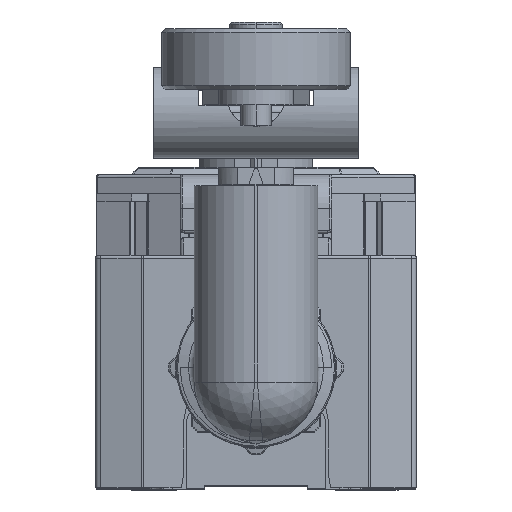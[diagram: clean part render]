
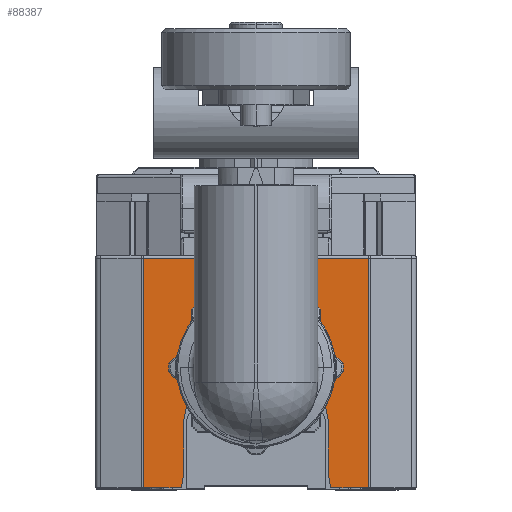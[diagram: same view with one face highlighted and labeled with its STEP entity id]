
A CAD part, top view. The second image highlights one B-rep face of the part: STEP entity #88387.
In plain terms, the highlighted planar face has unit normal (0, 0, 1).
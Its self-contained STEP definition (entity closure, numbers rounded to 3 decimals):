
#76668=DIRECTION('',(-0.18,-0.984,0.));
#76669=VECTOR('',#76668,1.525);
#76670=CARTESIAN_POINT('',(-9.591,1.65,4.55));
#76671=LINE('',#76670,#76669);
#76675=DIRECTION('',(0.,-1.,0.));
#76676=VECTOR('',#76675,30.3);
#76677=CARTESIAN_POINT('',(-14.868,30.45,4.55));
#76678=LINE('',#76677,#76676);
#76682=DIRECTION('',(0.,1.,0.));
#76683=VECTOR('',#76682,30.3);
#76684=CARTESIAN_POINT('',(14.868,0.15,4.55));
#76685=LINE('',#76684,#76683);
#76689=DIRECTION('',(-0.18,0.984,0.));
#76690=VECTOR('',#76689,1.525);
#76691=CARTESIAN_POINT('',(9.865,0.15,4.55));
#76692=LINE('',#76691,#76690);
#76696=DIRECTION('',(0.006,-1.,0.));
#76697=VECTOR('',#76696,7.385);
#76698=CARTESIAN_POINT('',(9.544,9.035,4.55));
#76699=LINE('',#76698,#76697);
#76703=DIRECTION('',(-0.009,1.,0.));
#76704=VECTOR('',#76703,3.388);
#76705=CARTESIAN_POINT('',(8.379,12.685,4.55));
#76706=LINE('',#76705,#76704);
#76710=CARTESIAN_POINT('',(0.,16.,4.55));
#76711=DIRECTION('',(0.,0.,1.));
#76712=DIRECTION('',(1.,0.009,0.));
#76713=AXIS2_PLACEMENT_3D('',#76710,#76711,#76712);
#76718=DIRECTION('',(-0.009,-1.,0.));
#76719=VECTOR('',#76718,3.388);
#76720=CARTESIAN_POINT('',(-8.35,16.073,4.55));
#76721=LINE('',#76720,#76719);
#76725=DIRECTION('',(0.006,1.,0.));
#76726=VECTOR('',#76725,7.385);
#76727=CARTESIAN_POINT('',(-9.591,1.65,4.55));
#76728=LINE('',#76727,#76726);
#76732=CARTESIAN_POINT('',(-1.439,29.85,4.55));
#76733=DIRECTION('',(0.,0.,-1.));
#76734=DIRECTION('',(-0.866,-0.5,0.));
#76735=AXIS2_PLACEMENT_3D('',#76732,#76733,#76734);
#76740=DIRECTION('',(-0.5,0.866,0.));
#76741=VECTOR('',#76740,2.194);
#76742=CARTESIAN_POINT('',(-0.515,27.85,4.55));
#76743=LINE('',#76742,#76741);
#76747=CARTESIAN_POINT('',(-0.342,27.95,4.55));
#76748=DIRECTION('',(0.,0.,-1.));
#76749=DIRECTION('',(0.,-1.,0.));
#76750=AXIS2_PLACEMENT_3D('',#76747,#76748,#76749);
#76755=DIRECTION('',(-1.,0.,0.));
#76756=VECTOR('',#76755,0.685);
#76757=CARTESIAN_POINT('',(0.342,27.75,4.55));
#76758=LINE('',#76757,#76756);
#76762=CARTESIAN_POINT('',(0.342,27.95,4.55));
#76763=DIRECTION('',(0.,0.,-1.));
#76764=DIRECTION('',(0.866,-0.5,0.));
#76765=AXIS2_PLACEMENT_3D('',#76762,#76763,#76764);
#76770=DIRECTION('',(-0.5,-0.866,0.));
#76771=VECTOR('',#76770,2.194);
#76772=CARTESIAN_POINT('',(1.612,29.75,4.55));
#76773=LINE('',#76772,#76771);
#76777=CARTESIAN_POINT('',(1.439,29.85,4.55));
#76778=DIRECTION('',(0.,0.,-1.));
#76779=DIRECTION('',(0.,1.,0.));
#76780=AXIS2_PLACEMENT_3D('',#76777,#76778,#76779);
#76785=DIRECTION('',(1.,0.,0.));
#76786=VECTOR('',#76785,2.878);
#76787=CARTESIAN_POINT('',(-1.439,30.05,4.55));
#76788=LINE('',#76787,#76786);
#76964=DIRECTION('',(1.,0.,0.));
#76965=VECTOR('',#76964,5.004);
#76966=CARTESIAN_POINT('',(-14.868,0.15,4.55));
#76967=LINE('',#76966,#76965);
#77037=CARTESIAN_POINT('',(0.,8.,4.55));
#77038=DIRECTION('',(0.,0.,-1.));
#77039=DIRECTION('',(-0.994,0.108,0.));
#77040=AXIS2_PLACEMENT_3D('',#77037,#77038,#77039);
#77242=CARTESIAN_POINT('',(0.,8.,4.55));
#77243=DIRECTION('',(0.,0.,-1.));
#77244=DIRECTION('',(0.873,0.488,0.));
#77245=AXIS2_PLACEMENT_3D('',#77242,#77243,#77244);
#77288=DIRECTION('',(1.,0.,0.));
#77289=VECTOR('',#77288,5.004);
#77290=CARTESIAN_POINT('',(9.865,0.15,4.55));
#77291=LINE('',#77290,#77289);
#78525=DIRECTION('',(-1.,0.,0.));
#78526=VECTOR('',#78525,29.737);
#78527=CARTESIAN_POINT('',(14.868,30.45,4.55));
#78528=LINE('',#78527,#78526);
#87898=CARTESIAN_POINT('',(-8.35,16.073,4.55));
#87899=CARTESIAN_POINT('',(-8.379,12.685,4.55));
#87900=VERTEX_POINT('',#87898);
#87901=VERTEX_POINT('',#87899);
#87902=CARTESIAN_POINT('',(8.379,12.685,4.55));
#87903=CARTESIAN_POINT('',(8.35,16.073,4.55));
#87904=VERTEX_POINT('',#87902);
#87905=VERTEX_POINT('',#87903);
#87954=CARTESIAN_POINT('',(-9.544,9.035,4.55));
#87955=VERTEX_POINT('',#87954);
#87958=CARTESIAN_POINT('',(9.544,9.035,4.55));
#87959=VERTEX_POINT('',#87958);
#88042=CARTESIAN_POINT('',(14.868,0.15,4.55));
#88043=VERTEX_POINT('',#88042);
#88044=CARTESIAN_POINT('',(14.868,30.45,4.55));
#88045=VERTEX_POINT('',#88044);
#88048=CARTESIAN_POINT('',(-14.868,0.15,4.55));
#88049=VERTEX_POINT('',#88048);
#88050=CARTESIAN_POINT('',(-14.868,30.45,4.55));
#88051=VERTEX_POINT('',#88050);
#88183=CARTESIAN_POINT('',(-1.612,29.75,4.55));
#88184=CARTESIAN_POINT('',(-1.439,30.05,4.55));
#88185=VERTEX_POINT('',#88183);
#88186=VERTEX_POINT('',#88184);
#88191=CARTESIAN_POINT('',(1.439,30.05,4.55));
#88192=VERTEX_POINT('',#88191);
#88195=CARTESIAN_POINT('',(1.612,29.75,4.55));
#88196=VERTEX_POINT('',#88195);
#88199=CARTESIAN_POINT('',(0.515,27.85,4.55));
#88200=VERTEX_POINT('',#88199);
#88203=CARTESIAN_POINT('',(0.342,27.75,4.55));
#88204=VERTEX_POINT('',#88203);
#88207=CARTESIAN_POINT('',(-0.342,27.75,4.55));
#88208=VERTEX_POINT('',#88207);
#88211=CARTESIAN_POINT('',(-0.515,27.85,4.55));
#88212=VERTEX_POINT('',#88211);
#88226=CARTESIAN_POINT('',(-9.865,0.15,4.55));
#88228=VERTEX_POINT('',#88226);
#88230=CARTESIAN_POINT('',(9.865,0.15,4.55));
#88232=VERTEX_POINT('',#88230);
#88233=CARTESIAN_POINT('',(-9.591,1.65,4.55));
#88234=VERTEX_POINT('',#88233);
#88235=CARTESIAN_POINT('',(9.591,1.65,4.55));
#88236=VERTEX_POINT('',#88235);
#88336=CARTESIAN_POINT('',(-21.,0.15,4.55));
#88337=DIRECTION('',(0.,0.,1.));
#88338=DIRECTION('',(1.,0.,0.));
#88339=AXIS2_PLACEMENT_3D('',#88336,#88337,#88338);
#88340=PLANE('',#88339);
#88342=ORIENTED_EDGE('',*,*,#88341,.T.);
#88344=ORIENTED_EDGE('',*,*,#88343,.F.);
#88346=ORIENTED_EDGE('',*,*,#88345,.F.);
#88348=ORIENTED_EDGE('',*,*,#88347,.F.);
#88350=ORIENTED_EDGE('',*,*,#88349,.F.);
#88352=ORIENTED_EDGE('',*,*,#88351,.F.);
#88354=ORIENTED_EDGE('',*,*,#88353,.T.);
#88356=ORIENTED_EDGE('',*,*,#88355,.F.);
#88358=ORIENTED_EDGE('',*,*,#88357,.F.);
#88360=ORIENTED_EDGE('',*,*,#88359,.T.);
#88361=ORIENTED_EDGE('',*,*,#88291,.T.);
#88362=ORIENTED_EDGE('',*,*,#88319,.T.);
#88364=ORIENTED_EDGE('',*,*,#88363,.F.);
#88366=ORIENTED_EDGE('',*,*,#88365,.F.);
#88367=EDGE_LOOP('',(#88342,#88344,#88346,#88348,#88350,#88352,#88354,#88356,
#88358,#88360,#88361,#88362,#88364,#88366));
#88368=FACE_OUTER_BOUND('',#88367,.F.);
#88370=ORIENTED_EDGE('',*,*,#88369,.F.);
#88372=ORIENTED_EDGE('',*,*,#88371,.F.);
#88374=ORIENTED_EDGE('',*,*,#88373,.F.);
#88376=ORIENTED_EDGE('',*,*,#88375,.F.);
#88378=ORIENTED_EDGE('',*,*,#88377,.F.);
#88380=ORIENTED_EDGE('',*,*,#88379,.F.);
#88382=ORIENTED_EDGE('',*,*,#88381,.F.);
#88384=ORIENTED_EDGE('',*,*,#88383,.F.);
#88385=EDGE_LOOP('',(#88370,#88372,#88374,#88376,#88378,#88380,#88382,#88384));
#88386=FACE_BOUND('',#88385,.F.);
#76714=CIRCLE('',#76713,8.35);
#76736=CIRCLE('',#76735,0.2);
#76751=CIRCLE('',#76750,0.2);
#76766=CIRCLE('',#76765,0.2);
#76781=CIRCLE('',#76780,0.2);
#77041=CIRCLE('',#77040,9.6);
#77246=CIRCLE('',#77245,9.6);
#88291=EDGE_CURVE('',#87905,#87900,#76714,.T.);
#88319=EDGE_CURVE('',#87900,#87901,#76721,.T.);
#88341=EDGE_CURVE('',#88234,#88228,#76671,.T.);
#88343=EDGE_CURVE('',#88049,#88228,#76967,.T.);
#88345=EDGE_CURVE('',#88051,#88049,#76678,.T.);
#88347=EDGE_CURVE('',#88045,#88051,#78528,.T.);
#88349=EDGE_CURVE('',#88043,#88045,#76685,.T.);
#88351=EDGE_CURVE('',#88232,#88043,#77291,.T.);
#88353=EDGE_CURVE('',#88232,#88236,#76692,.T.);
#88355=EDGE_CURVE('',#87959,#88236,#76699,.T.);
#88357=EDGE_CURVE('',#87904,#87959,#77246,.T.);
#88359=EDGE_CURVE('',#87904,#87905,#76706,.T.);
#88363=EDGE_CURVE('',#87955,#87901,#77041,.T.);
#88365=EDGE_CURVE('',#88234,#87955,#76728,.T.);
#88369=EDGE_CURVE('',#88185,#88186,#76736,.T.);
#88371=EDGE_CURVE('',#88212,#88185,#76743,.T.);
#88373=EDGE_CURVE('',#88208,#88212,#76751,.T.);
#88375=EDGE_CURVE('',#88204,#88208,#76758,.T.);
#88377=EDGE_CURVE('',#88200,#88204,#76766,.T.);
#88379=EDGE_CURVE('',#88196,#88200,#76773,.T.);
#88381=EDGE_CURVE('',#88192,#88196,#76781,.T.);
#88383=EDGE_CURVE('',#88186,#88192,#76788,.T.);
#88387=ADVANCED_FACE('',(#88368,#88386),#88340,.T.);
